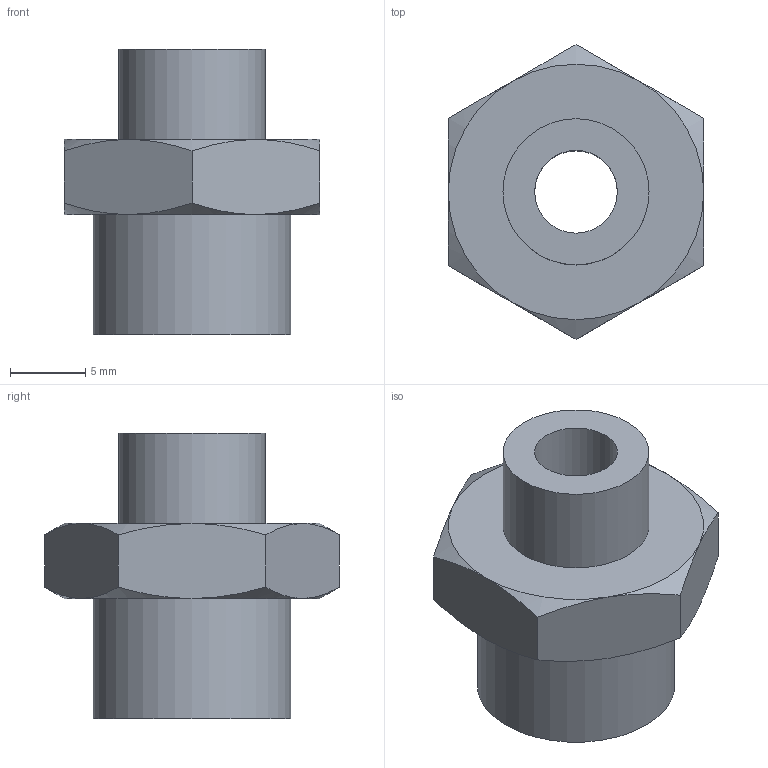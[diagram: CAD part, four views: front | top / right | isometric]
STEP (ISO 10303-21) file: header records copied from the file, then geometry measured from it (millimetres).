
FILE_DESCRIPTION(/* description */ (''),/* implementation_level */ '2;1');
FILE_NAME(/* name */ 'C:\PNX_VAULTFOLDER\Area Tecnica\Disegni\VARIE-3D\Componenti\raccordi\101####\1011814.stp',/* time_stamp */ '2019-09-13T10:22:50+02:00',/* author */ ('maniean1'),/* organization */ ('Pneumax S.p.A.'),/* preprocessor_version */ 'ST-DEVELOPER v17',/* originating_system */ 'Autodesk Inventor 2019',/* authorisation */ '');
FILE_SCHEMA (('AUTOMOTIVE_DESIGN { 1 0 10303 214 3 1 1 }'));
Length unit declared in the file: millimetre
Products named in the file (1): 1011814
Bounding box: 17 x 19.63 x 19 mm (x, y, z)
Volume: 2322.9 mm3; surface area: 1566.4 mm2
Topology: 1 solids, 1 shells, 25 faces, 56 edges, 35 vertices
Faces by surface type: cone 12, plane 10, cylinder 3
Full cylindrical faces by diameter (mm): 5.5 x1, 9.728 x1, 13.157 x1
Entity records: 741 total; most frequent: CARTESIAN_POINT 165, ORIENTED_EDGE 112, DIRECTION 107, EDGE_CURVE 56, AXIS2_PLACEMENT_3D 49, VERTEX_POINT 35, EDGE_LOOP 29, STYLED_ITEM 26
